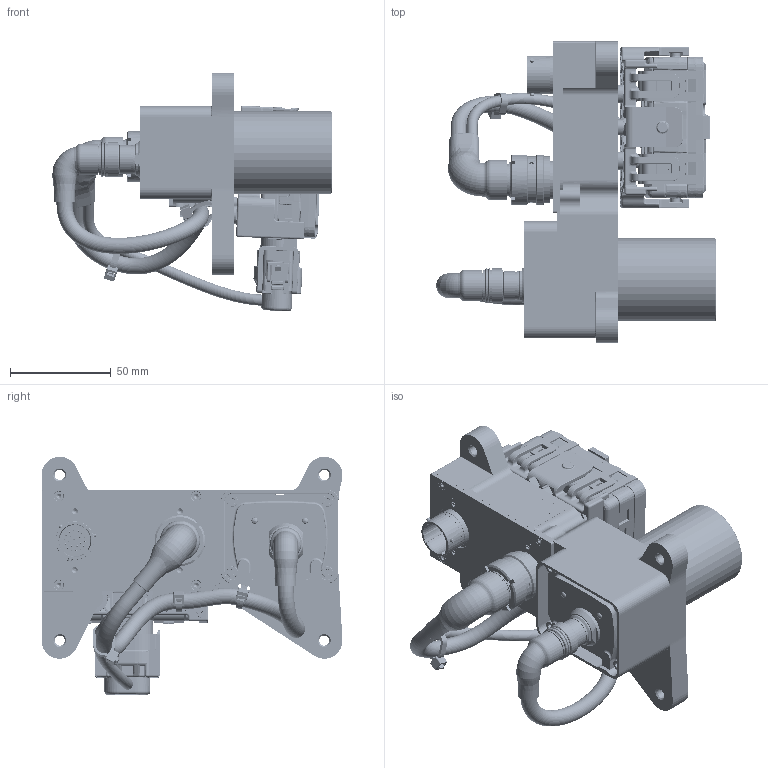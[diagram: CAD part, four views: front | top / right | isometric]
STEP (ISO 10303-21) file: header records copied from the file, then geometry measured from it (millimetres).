
FILE_DESCRIPTION(/* description */ (''),/* implementation_level */ '2;1');
FILE_NAME(/* name */ 'F02UA02630-02_MOD_01.stp',/* time_stamp */ '2019-03-26T14:18:30+01:00',/* author */ (''),/* organization */ (''),/* preprocessor_version */ 'ST-DEVELOPER v16',/* originating_system */ 'SIEMENS PLM Software NX 11.0',/* authorisation */ '');
FILE_SCHEMA (('AUTOMOTIVE_DESIGN { 1 0 10303 214 3 1 1 1 }'));
Products named in the file (1): LHB20E3C4863z4lo
Bounding box: 138.5 x 149.01 x 118 mm (x, y, z)
Surface area: 144324.1 mm2
Topology: 1 solids, 2 shells, 5690 faces, 14660 edges, 8937 vertices
Faces by surface type: cylinder 2095, plane 1948, bspline 652, torus 568, cone 199, sphere 134, extrusion 86, revolution 8
Full cylindrical faces by diameter (mm): 0.74 x22, 0.788 x8, 1 x2, 1.583 x4, 2 x3, 2.38 x3, 4 x2, 4.7 x4, 5 x4, 5.5 x4, 6.5 x9, 6.742 x1, 7.576 x1, 7.6 x4, 8 x1, 8.2 x2, 9 x4, 10.6 x1, 13 x1, 13.8 x1, 14.3 x2, 15.4 x2, 15.6 x1, 15.7 x1, 16.1 x2, 16.18 x1, 17 x3, 17.31 x2, 18.65 x2, 18.85 x1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
Entity records: 223569 total; most frequent: CARTESIAN_POINT 65607, ORIENTED_EDGE 27936, DIRECTION 26651, EDGE_CURVE 13968, AXIS2_PLACEMENT_3D 9892, VERTEX_POINT 8735, VECTOR 6859, LINE 6773
